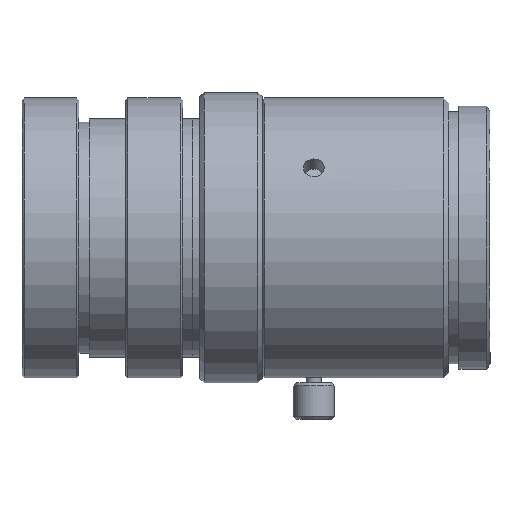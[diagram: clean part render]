
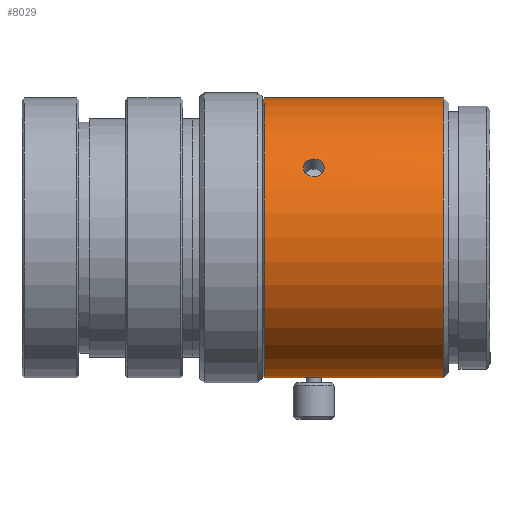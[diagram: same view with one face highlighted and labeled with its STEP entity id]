
A CAD part, top view. The second image highlights one B-rep face of the part: STEP entity #8029.
In plain terms, the highlighted cylindrical face has radius 13.5 mm (diameter 27 mm), a partial arc.
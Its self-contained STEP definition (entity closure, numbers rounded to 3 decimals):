
#75 = CYLINDRICAL_SURFACE ( 'NONE', #1158, 13.5 ) ;
#226 = CARTESIAN_POINT ( 'NONE',  ( -79.968, -13.5, 0. ) ) ;
#236 = CIRCLE ( 'NONE', #7052, 13.5 ) ;
#336 = CARTESIAN_POINT ( 'NONE',  ( -31.031, -13.472, 0.873 ) ) ;
#416 = DIRECTION ( 'NONE',  ( 0., -1., 0. ) ) ;
#421 = CARTESIAN_POINT ( 'NONE',  ( -29.526, -13.5, 0.264 ) ) ;
#559 = DIRECTION ( 'NONE',  ( 0., -1., 0. ) ) ;
#561 = CARTESIAN_POINT ( 'NONE',  ( -18.026, -13.5, 0. ) ) ;
#710 = ORIENTED_EDGE ( 'NONE', *, *, #7688, .T. ) ;
#791 = B_SPLINE_CURVE_WITH_KNOTS ( 'NONE', 3,
 ( #7496, #2335, #4985, #4224, #6856, #3558, #8378, #3809, #3631, #5770, #8302, #1650, #5004, #8337, #7692, #1733 ),
 .UNSPECIFIED., .F., .F.,
 ( 4, 2, 2, 2, 2, 2, 2, 4 ),
 ( 0.003, 0.004, 0.004, 0.004, 0.005, 0.005, 0.005, 0.006 ),
 .UNSPECIFIED. ) ;
#836 = VECTOR ( 'NONE', #5732, 1000. ) ;
#937 = CARTESIAN_POINT ( 'NONE',  ( -31.526, -13.5, 0.131 ) ) ;
#989 = CARTESIAN_POINT ( 'NONE',  ( -31.4, -13.491, 0.503 ) ) ;
#1043 = CARTESIAN_POINT ( 'NONE',  ( -30.526, 7.597, 11.159 ) ) ;
#1109 = CARTESIAN_POINT ( 'NONE',  ( -30.789, -13.465, 0.974 ) ) ;
#1158 = AXIS2_PLACEMENT_3D ( 'NONE', #2533, #2718, #3852 ) ;
#1166 = CARTESIAN_POINT ( 'NONE',  ( -31.5, 6.522, 11.821 ) ) ;
#1203 = CARTESIAN_POINT ( 'NONE',  ( -31.5, 6.975, 11.559 ) ) ;
#1486 = EDGE_CURVE ( 'NONE', #5270, #8480, #2956, .T. ) ;
#1650 = CARTESIAN_POINT ( 'NONE',  ( -29.652, 6.31, 11.935 ) ) ;
#1716 = CARTESIAN_POINT ( 'NONE',  ( -31.4, 7.182, 11.432 ) ) ;
#1733 = CARTESIAN_POINT ( 'NONE',  ( -30.526, 5.865, 12.159 ) ) ;
#1750 = CARTESIAN_POINT ( 'NONE',  ( -30.658, 5.865, 12.159 ) ) ;
#1796 = DIRECTION ( 'NONE',  ( -1., 0., 0. ) ) ;
#1831 = CARTESIAN_POINT ( 'NONE',  ( -18.026, 13.5, 0. ) ) ;
#1844 = EDGE_CURVE ( 'NONE', #6095, #6111, #791, .T. ) ;
#1872 = EDGE_CURVE ( 'NONE', #7883, #7550, #2358, .T. ) ;
#2335 = CARTESIAN_POINT ( 'NONE',  ( -30.395, 7.597, 11.159 ) ) ;
#2358 = LINE ( 'NONE', #3099, #836 ) ;
#2385 = CARTESIAN_POINT ( 'NONE',  ( -30.526, 5.865, 12.159 ) ) ;
#2446 = ORIENTED_EDGE ( 'NONE', *, *, #3577, .F. ) ;
#2533 = CARTESIAN_POINT ( 'NONE',  ( -79.968, 0., 0. ) ) ;
#2610 = EDGE_CURVE ( 'NONE', #6904, #7883, #5099, .T. ) ;
#2718 = DIRECTION ( 'NONE',  ( -1., 0., 0. ) ) ;
#2921 = ORIENTED_EDGE ( 'NONE', *, *, #1872, .T. ) ;
#2956 = LINE ( 'NONE', #226, #6149 ) ;
#3025 = CARTESIAN_POINT ( 'NONE',  ( -30.395, -13.463, 1. ) ) ;
#3074 = CARTESIAN_POINT ( 'NONE',  ( -31.4, 6.31, 11.935 ) ) ;
#3099 = CARTESIAN_POINT ( 'NONE',  ( -79.968, 13.5, 0. ) ) ;
#3147 = EDGE_CURVE ( 'NONE', #6904, #6131, #6165, .T. ) ;
#3157 = CARTESIAN_POINT ( 'NONE',  ( -31.03, 7.493, 11.23 ) ) ;
#3204 = CARTESIAN_POINT ( 'NONE',  ( -30.788, 5.889, 12.148 ) ) ;
#3309 = AXIS2_PLACEMENT_3D ( 'NONE', #4398, #7057, #416 ) ;
#3408 = EDGE_CURVE ( 'NONE', #5270, #6131, #6140, .T. ) ;
#3500 = VECTOR ( 'NONE', #1796, 1000. ) ;
#3506 = ORIENTED_EDGE ( 'NONE', *, *, #1486, .F. ) ;
#3522 = CARTESIAN_POINT ( 'NONE',  ( -35.326, 13.5, 0. ) ) ;
#3558 = CARTESIAN_POINT ( 'NONE',  ( -29.727, 7.276, 11.372 ) ) ;
#3572 = CARTESIAN_POINT ( 'NONE',  ( -79.968, -13.5, 0. ) ) ;
#3577 = EDGE_CURVE ( 'NONE', #8480, #7550, #236, .T. ) ;
#3631 = CARTESIAN_POINT ( 'NONE',  ( -29.526, 6.865, 11.625 ) ) ;
#3637 = CARTESIAN_POINT ( 'NONE',  ( -29.526, -13.5, 0. ) ) ;
#3645 = ORIENTED_EDGE ( 'NONE', *, *, #2610, .T. ) ;
#3678 = CARTESIAN_POINT ( 'NONE',  ( -31.326, -13.486, 0.614 ) ) ;
#3744 = B_SPLINE_CURVE_WITH_KNOTS ( 'NONE', 3,
 ( #5025, #1750, #3204, #7160, #7669, #5797, #3074, #1166, #6989, #4417, #1203, #1716, #3826, #6454, #3157, #8446, #4372, #1043 ),
 .UNSPECIFIED., .F., .F.,
 ( 4, 2, 2, 2, 2, 2, 2, 2, 4 ),
 ( 0., 0., 0.001, 0.001, 0.002, 0.002, 0.002, 0.003, 0.003 ),
 .UNSPECIFIED. ) ;
#3797 = CARTESIAN_POINT ( 'NONE',  ( -35.326, -13.5, 0. ) ) ;
#3809 = CARTESIAN_POINT ( 'NONE',  ( -29.552, 6.976, 11.558 ) ) ;
#3826 = CARTESIAN_POINT ( 'NONE',  ( -31.327, 7.275, 11.373 ) ) ;
#3852 = DIRECTION ( 'NONE',  ( 0., -1., 0. ) ) ;
#4123 = EDGE_LOOP ( 'NONE', ( #710, #5568 ) ) ;
#4224 = CARTESIAN_POINT ( 'NONE',  ( -30.023, 7.493, 11.23 ) ) ;
#4247 = CARTESIAN_POINT ( 'NONE',  ( -31.526, -13.5, 0. ) ) ;
#4320 = CARTESIAN_POINT ( 'NONE',  ( -30.659, -13.463, 1. ) ) ;
#4372 = CARTESIAN_POINT ( 'NONE',  ( -30.657, 7.597, 11.159 ) ) ;
#4398 = CARTESIAN_POINT ( 'NONE',  ( -18.026, 0., 0. ) ) ;
#4417 = CARTESIAN_POINT ( 'NONE',  ( -31.526, 6.863, 11.626 ) ) ;
#4443 = CARTESIAN_POINT ( 'NONE',  ( -31.141, -13.477, 0.799 ) ) ;
#4671 = DIRECTION ( 'NONE',  ( -1., 0., 0. ) ) ;
#4985 = CARTESIAN_POINT ( 'NONE',  ( -30.264, 7.576, 11.174 ) ) ;
#5004 = CARTESIAN_POINT ( 'NONE',  ( -29.726, 6.211, 11.987 ) ) ;
#5025 = CARTESIAN_POINT ( 'NONE',  ( -30.526, 5.865, 12.159 ) ) ;
#5099 = CIRCLE ( 'NONE', #3309, 13.5 ) ;
#5270 = VERTEX_POINT ( 'NONE', #6161 ) ;
#5443 = CARTESIAN_POINT ( 'NONE',  ( -31.5, -13.498, 0.262 ) ) ;
#5568 = ORIENTED_EDGE ( 'NONE', *, *, #1844, .T. ) ;
#5650 = CARTESIAN_POINT ( 'NONE',  ( -29.912, -13.477, 0.8 ) ) ;
#5732 = DIRECTION ( 'NONE',  ( -1., 0., 0. ) ) ;
#5738 = CARTESIAN_POINT ( 'NONE',  ( -30.265, -13.465, 0.974 ) ) ;
#5770 = CARTESIAN_POINT ( 'NONE',  ( -29.526, 6.636, 11.757 ) ) ;
#5797 = CARTESIAN_POINT ( 'NONE',  ( -31.325, 6.211, 11.987 ) ) ;
#5965 = FACE_OUTER_BOUND ( 'NONE', #6275, .T. ) ;
#6095 = VERTEX_POINT ( 'NONE', #7386 ) ;
#6102 = ORIENTED_EDGE ( 'NONE', *, *, #3147, .F. ) ;
#6111 = VERTEX_POINT ( 'NONE', #2385 ) ;
#6131 = VERTEX_POINT ( 'NONE', #7676 ) ;
#6140 = B_SPLINE_CURVE_WITH_KNOTS ( 'NONE', 3,
 ( #4247, #937, #5443, #989, #3678, #4443, #336, #1109, #4320, #3025, #5738, #8385, #5650, #6318, #421, #3637 ),
 .UNSPECIFIED., .F., .F.,
 ( 4, 2, 2, 2, 2, 2, 2, 4 ),
 ( 0.003, 0.004, 0.004, 0.004, 0.005, 0.005, 0.005, 0.006 ),
 .UNSPECIFIED. ) ;
#6149 = VECTOR ( 'NONE', #6953, 1000. ) ;
#6161 = CARTESIAN_POINT ( 'NONE',  ( -31.526, -13.5, 0. ) ) ;
#6165 = LINE ( 'NONE', #3572, #3500 ) ;
#6275 = EDGE_LOOP ( 'NONE', ( #3645, #2921, #2446, #3506, #8285, #6102 ) ) ;
#6318 = CARTESIAN_POINT ( 'NONE',  ( -29.635, -13.491, 0.523 ) ) ;
#6454 = CARTESIAN_POINT ( 'NONE',  ( -31.14, 7.431, 11.271 ) ) ;
#6856 = CARTESIAN_POINT ( 'NONE',  ( -29.912, 7.431, 11.271 ) ) ;
#6904 = VERTEX_POINT ( 'NONE', #561 ) ;
#6953 = DIRECTION ( 'NONE',  ( -1., 0., 0. ) ) ;
#6989 = CARTESIAN_POINT ( 'NONE',  ( -31.526, 6.637, 11.757 ) ) ;
#7052 = AXIS2_PLACEMENT_3D ( 'NONE', #8451, #4671, #559 ) ;
#7057 = DIRECTION ( 'NONE',  ( -1., 0., 0. ) ) ;
#7160 = CARTESIAN_POINT ( 'NONE',  ( -31.03, 5.979, 12.104 ) ) ;
#7358 = FACE_BOUND ( 'NONE', #4123, .T. ) ;
#7386 = CARTESIAN_POINT ( 'NONE',  ( -30.526, 7.597, 11.159 ) ) ;
#7496 = CARTESIAN_POINT ( 'NONE',  ( -30.526, 7.597, 11.159 ) ) ;
#7550 = VERTEX_POINT ( 'NONE', #3522 ) ;
#7669 = CARTESIAN_POINT ( 'NONE',  ( -31.141, 6.046, 12.071 ) ) ;
#7676 = CARTESIAN_POINT ( 'NONE',  ( -29.526, -13.5, 0. ) ) ;
#7688 = EDGE_CURVE ( 'NONE', #6111, #6095, #3744, .T. ) ;
#7692 = CARTESIAN_POINT ( 'NONE',  ( -30.262, 5.865, 12.159 ) ) ;
#7883 = VERTEX_POINT ( 'NONE', #1831 ) ;
#8029 = ADVANCED_FACE ( 'NONE', ( #7358, #5965 ), #75, .T. ) ;
#8285 = ORIENTED_EDGE ( 'NONE', *, *, #3408, .T. ) ;
#8302 = CARTESIAN_POINT ( 'NONE',  ( -29.552, 6.523, 11.82 ) ) ;
#8337 = CARTESIAN_POINT ( 'NONE',  ( -30.003, 5.964, 12.113 ) ) ;
#8378 = CARTESIAN_POINT ( 'NONE',  ( -29.653, 7.183, 11.431 ) ) ;
#8385 = CARTESIAN_POINT ( 'NONE',  ( -30.023, -13.472, 0.874 ) ) ;
#8446 = CARTESIAN_POINT ( 'NONE',  ( -30.788, 7.576, 11.174 ) ) ;
#8451 = CARTESIAN_POINT ( 'NONE',  ( -35.326, 0., 0. ) ) ;
#8480 = VERTEX_POINT ( 'NONE', #3797 ) ;
